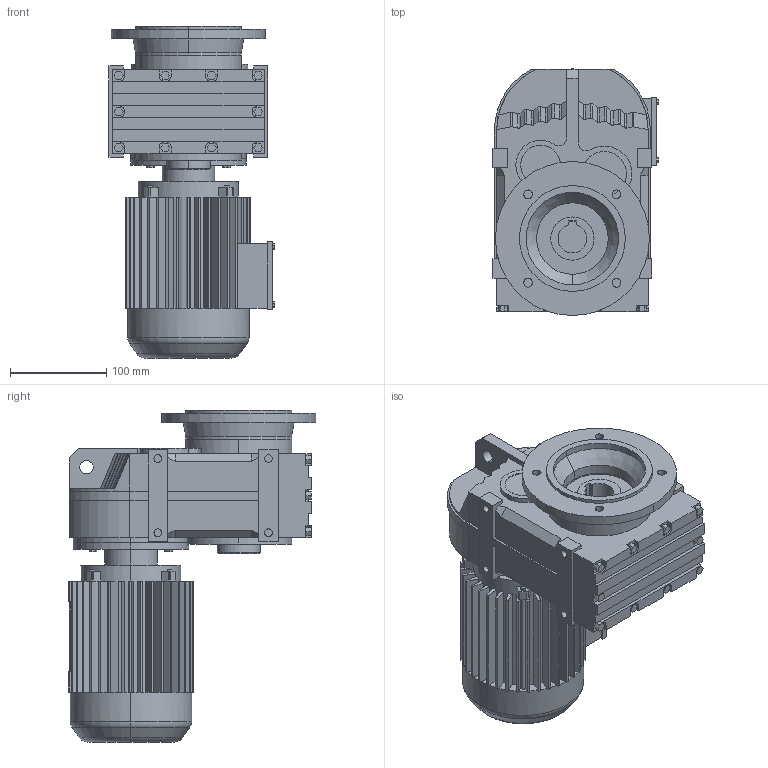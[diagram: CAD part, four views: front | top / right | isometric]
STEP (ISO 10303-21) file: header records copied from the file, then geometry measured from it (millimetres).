
FILE_DESCRIPTION(('Open CASCADE Model'),'2;1');
FILE_NAME('Open CASCADE Shape Model','2021-07-14T17:20:09',('Author'),( 'Open CASCADE'),'Open CASCADE STEP processor 6.3','Open CASCADE 6.3' ,'Unknown');
FILE_SCHEMA(('AUTOMOTIVE_DESIGN_CC2 { 1 2 10303 214 -1 1 5 4 }'));
Length unit declared in the file: millimetre
Products named in the file (5): 1_FAF37-Y63S; FA27‵157_37.step; 萇儂_120_Y63S.step; す瑩諾陑粣F_37.step; 楊擘F_37.step
Assembly tree (4 placements, depth 2):
  1_FAF37-Y63S
    FA27‵157_37.step
    萇儂_120_Y63S.step
    す瑩諾陑粣F_37.step
    楊擘F_37.step
Bounding box: 172.5 x 257 x 345 mm (x, y, z)
Volume: 5775858.8 mm3; surface area: 482467.2 mm2
Topology: 4 solids, 4 shells, 798 faces, 2105 edges, 1368 vertices
Faces by surface type: plane 567, cylinder 205, bspline 16, cone 6, torus 4
Entity records: 53844 total; most frequent: CARTESIAN_POINT 13426, DIRECTION 7069, ORIENTED_EDGE 4210, PCURVE 4210, DEFINITIONAL_REPRESENTATION 4210, LINE 3957, VECTOR 3957, EDGE_CURVE 2105
